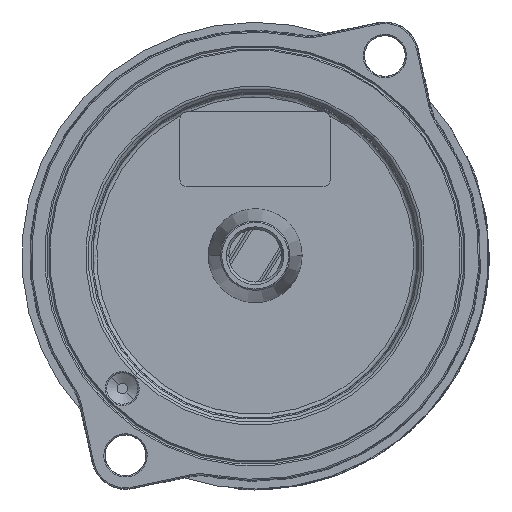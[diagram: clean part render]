
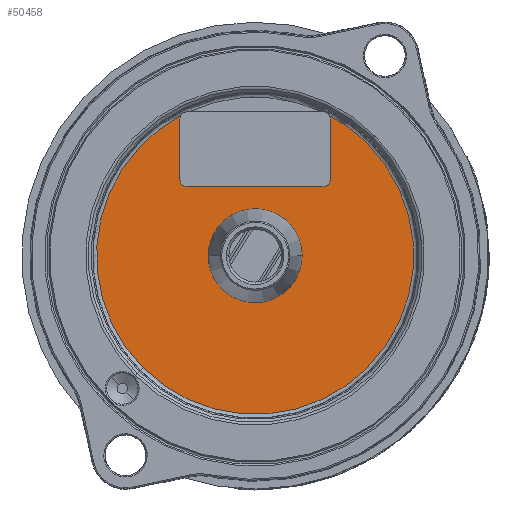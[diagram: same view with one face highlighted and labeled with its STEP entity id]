
A CAD part, front view. The second image highlights one B-rep face of the part: STEP entity #50458.
In plain terms, the highlighted planar face has unit normal (0, -1, 0).
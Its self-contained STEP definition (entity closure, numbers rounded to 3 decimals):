
#65=CARTESIAN_POINT('',(0.,-3.25,0.));
#66=DIRECTION('',(0.,1.,0.));
#67=DIRECTION('',(-1.,0.,0.));
#68=AXIS2_PLACEMENT_3D('',#65,#66,#67);
#70=DIRECTION('',(0.,0.,1.));
#71=VECTOR('',#70,4.8);
#72=CARTESIAN_POINT('',(-6.,-3.25,6.1));
#73=LINE('',#72,#71);
#74=CARTESIAN_POINT('',(-5.4,-3.25,6.1));
#75=DIRECTION('',(0.,-1.,0.));
#76=DIRECTION('',(-1.,0.,0.));
#77=AXIS2_PLACEMENT_3D('',#74,#75,#76);
#79=DIRECTION('',(-1.,0.,0.));
#80=VECTOR('',#79,10.8);
#81=CARTESIAN_POINT('',(5.4,-3.25,5.5));
#82=LINE('',#81,#80);
#83=CARTESIAN_POINT('',(5.4,-3.25,6.1));
#84=DIRECTION('',(0.,-1.,0.));
#85=DIRECTION('',(0.,0.,-1.));
#86=AXIS2_PLACEMENT_3D('',#83,#84,#85);
#88=DIRECTION('',(0.,0.,-1.));
#89=VECTOR('',#88,4.8);
#90=CARTESIAN_POINT('',(6.,-3.25,10.9));
#91=LINE('',#90,#89);
#92=CARTESIAN_POINT('',(5.4,-3.25,10.9));
#93=DIRECTION('',(0.,-1.,0.));
#94=DIRECTION('',(1.,0.,0.));
#95=AXIS2_PLACEMENT_3D('',#92,#93,#94);
#97=CARTESIAN_POINT('',(0.,-3.25,
0.));
#98=DIRECTION('',(0.,-1.,0.));
#99=DIRECTION('',(0.707,0.,0.707));
#100=AXIS2_PLACEMENT_3D('',#97,#98,#99);
#102=CARTESIAN_POINT('',(0.,-3.25,
0.));
#103=DIRECTION('',(0.,-1.,0.));
#104=DIRECTION('',(-0.707,0.,-0.707));
#105=AXIS2_PLACEMENT_3D('',#102,#103,#104);
#107=CARTESIAN_POINT('',(0.,-3.25,
0.));
#108=DIRECTION('',(0.,-1.,0.));
#109=DIRECTION('',(-0.469,0.,0.883));
#110=AXIS2_PLACEMENT_3D('',#107,#108,#109);
#112=CARTESIAN_POINT('',(-5.4,-3.25,10.9));
#113=DIRECTION('',(0.,-1.,0.));
#114=DIRECTION('',(-0.884,0.,0.468));
#115=AXIS2_PLACEMENT_3D('',#112,#113,#114);
#37786=CARTESIAN_POINT('',(0.,-3.25,0.));
#37787=DIRECTION('',(0.,1.,0.));
#37788=DIRECTION('',(1.,0.,0.));
#37789=AXIS2_PLACEMENT_3D('',#37786,#37787,#37788);
#46195=CARTESIAN_POINT('',(-8.95,-3.25,
-8.949));
#46196=CARTESIAN_POINT('',(8.95,-3.25,
8.949));
#46197=VERTEX_POINT('',#46195);
#46198=VERTEX_POINT('',#46196);
#46329=CARTESIAN_POINT('',(-3.75,-3.25,0.));
#46330=CARTESIAN_POINT('',(3.75,-3.25,0.));
#46331=VERTEX_POINT('',#46329);
#46332=VERTEX_POINT('',#46330);
#48018=CARTESIAN_POINT('',(-6.,-3.25,
6.1));
#48019=CARTESIAN_POINT('',(-6.,-3.25,
10.9));
#48020=VERTEX_POINT('',#48018);
#48021=VERTEX_POINT('',#48019);
#48026=CARTESIAN_POINT('',(6.,-3.25,
10.9));
#48027=CARTESIAN_POINT('',(6.,-3.25,
6.1));
#48028=VERTEX_POINT('',#48026);
#48029=VERTEX_POINT('',#48027);
#48030=CARTESIAN_POINT('',(5.4,-3.25,
5.5));
#48031=CARTESIAN_POINT('',(-5.4,-3.25,
5.5));
#48032=VERTEX_POINT('',#48030);
#48033=VERTEX_POINT('',#48031);
#48034=CARTESIAN_POINT('',(-5.93,-3.25,
11.181));
#48035=VERTEX_POINT('',#48034);
#48036=CARTESIAN_POINT('',(5.93,-3.25,
11.181));
#48037=VERTEX_POINT('',#48036);
#50426=CARTESIAN_POINT('',(0.,-3.25,
0.));
#50427=DIRECTION('',(0.,-1.,0.));
#50428=DIRECTION('',(-0.707,0.,-0.707));
#50429=AXIS2_PLACEMENT_3D('',#50426,#50427,#50428);
#50430=PLANE('',#50429);
#50432=ORIENTED_EDGE('',*,*,#50431,.F.);
#50434=ORIENTED_EDGE('',*,*,#50433,.T.);
#50436=ORIENTED_EDGE('',*,*,#50435,.F.);
#50438=ORIENTED_EDGE('',*,*,#50437,.T.);
#50440=ORIENTED_EDGE('',*,*,#50439,.F.);
#50442=ORIENTED_EDGE('',*,*,#50441,.T.);
#50444=ORIENTED_EDGE('',*,*,#50443,.F.);
#50446=ORIENTED_EDGE('',*,*,#50445,.F.);
#50448=ORIENTED_EDGE('',*,*,#50447,.F.);
#50450=ORIENTED_EDGE('',*,*,#50449,.T.);
#50451=EDGE_LOOP('',(#50432,#50434,#50436,#50438,#50440,#50442,#50444,#50446,
#50448,#50450));
#50452=FACE_OUTER_BOUND('',#50451,.F.);
#50453=ORIENTED_EDGE('',*,*,#50408,.F.);
#50455=ORIENTED_EDGE('',*,*,#50454,.F.);
#50456=EDGE_LOOP('',(#50453,#50455));
#50457=FACE_BOUND('',#50456,.F.);
#69=CIRCLE('',#68,3.75);
#78=CIRCLE('',#77,0.6);
#87=CIRCLE('',#86,0.6);
#96=CIRCLE('',#95,0.6);
#101=CIRCLE('',#100,12.656);
#106=CIRCLE('',#105,12.656);
#111=CIRCLE('',#110,12.656);
#116=CIRCLE('',#115,0.6);
#37790=CIRCLE('',#37789,3.75);
#50408=EDGE_CURVE('',#46331,#46332,#69,.T.);
#50431=EDGE_CURVE('',#48020,#48021,#73,.T.);
#50433=EDGE_CURVE('',#48020,#48033,#78,.T.);
#50435=EDGE_CURVE('',#48032,#48033,#82,.T.);
#50437=EDGE_CURVE('',#48032,#48029,#87,.T.);
#50439=EDGE_CURVE('',#48028,#48029,#91,.T.);
#50441=EDGE_CURVE('',#48028,#48037,#96,.T.);
#50443=EDGE_CURVE('',#46198,#48037,#101,.T.);
#50445=EDGE_CURVE('',#46197,#46198,#106,.T.);
#50447=EDGE_CURVE('',#48035,#46197,#111,.T.);
#50449=EDGE_CURVE('',#48035,#48021,#116,.T.);
#50454=EDGE_CURVE('',#46332,#46331,#37790,.T.);
#50458=ADVANCED_FACE('',(#50452,#50457),#50430,.T.);
